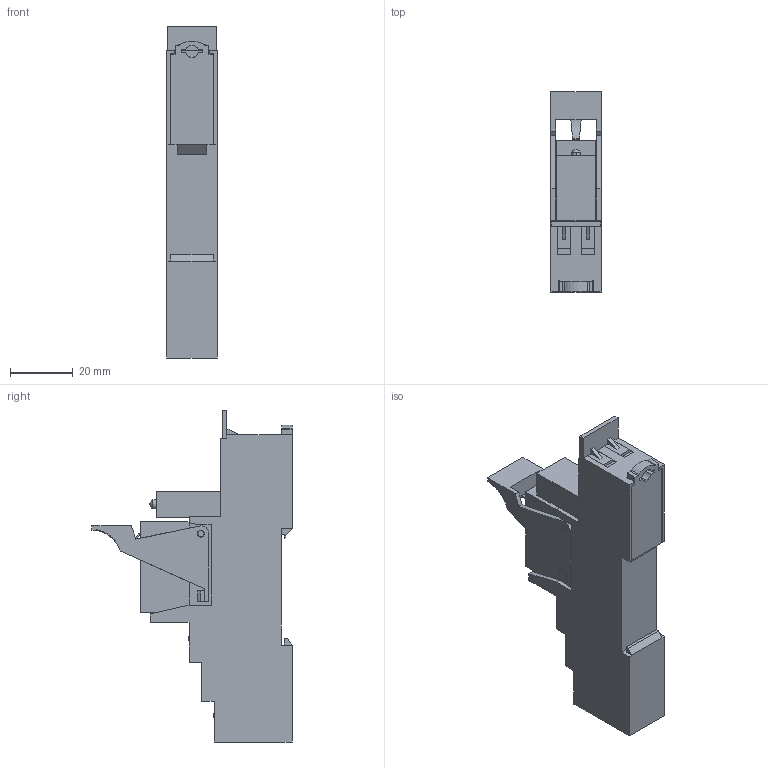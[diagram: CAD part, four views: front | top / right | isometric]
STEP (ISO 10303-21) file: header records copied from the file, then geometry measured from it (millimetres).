
FILE_DESCRIPTION (( 'STEP AP203' ), '1' );
FILE_NAME ('PRT7M-2 - PRXM-2R - PRRM-1R.STEP', '2019-03-27T12:43:16', ( '' ), ( '' ), 'SwSTEP 2.0', 'SolidWorks 2012', '' );
FILE_SCHEMA (( 'CONFIG_CONTROL_DESIGN' ));
Length unit declared in the file: millimetre
Products named in the file (1): PRT7M-2 - PRXM-2R - PRRM-1R
Bounding box: 15.9 x 63.6 x 105.5 mm (x, y, z)
Volume: 49344.9 mm3; surface area: 17754.7 mm2
Topology: 1 solids, 1 shells, 661 faces, 1788 edges, 1186 vertices
Faces by surface type: plane 536, bspline 87, cylinder 37, sphere 1
Entity records: 26170 total; most frequent: CARTESIAN_POINT 10006, ORIENTED_EDGE 3570, DIRECTION 2821, EDGE_CURVE 1785, LINE 1535, VECTOR 1535, VERTEX_POINT 1184, EDGE_LOOP 723
